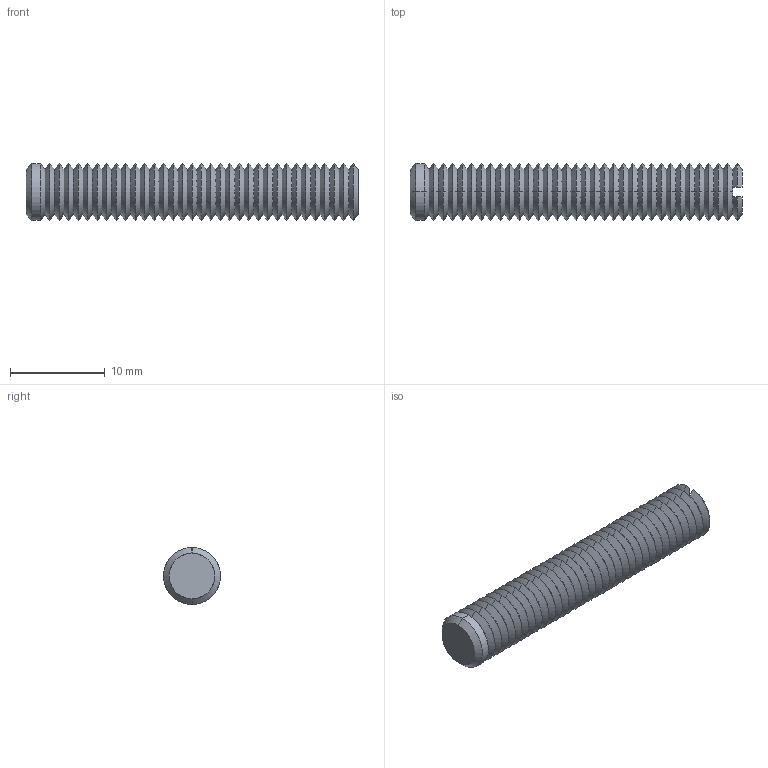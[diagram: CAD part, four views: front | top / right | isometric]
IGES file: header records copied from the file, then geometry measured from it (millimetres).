
Start section: SolidWorks IGES file using analytic representation for surfaces
Global section: file name: C:\Documents and Settings\IANO\Desktop\Temp File\Process pending\EXISTING\34300_v2\34300_v2_20170622_IGES\34300.W0063.igs; native system: SolidWorks 2009; preprocessor: SolidWorks 2009; author: IANO; date: 170622.093608; units: millimetre
Bounding box: 35 x 6 x 6 mm (x, y, z)
Surface area: 979.7 mm2 (no closed solid volume)
Topology: 0 solids, 0 shells, 144 faces, 640 edges, 640 vertices
Faces by surface type: revolution 138, bspline 6
